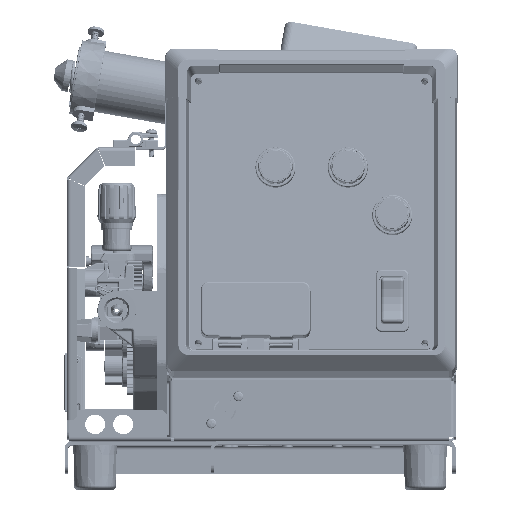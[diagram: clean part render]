
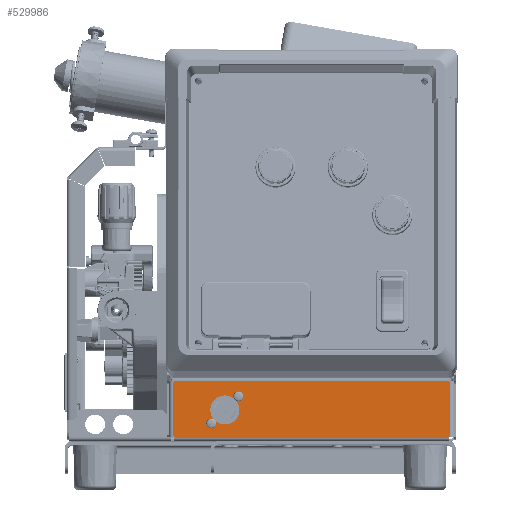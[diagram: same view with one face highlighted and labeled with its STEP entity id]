
A CAD part, top view. The second image highlights one B-rep face of the part: STEP entity #529986.
In plain terms, the highlighted planar face has unit normal (0, 0, 1).
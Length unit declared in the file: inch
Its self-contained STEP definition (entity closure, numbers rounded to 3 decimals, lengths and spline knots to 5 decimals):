
#7947 = EDGE_CURVE ( 'NONE', #282953, #280948, #452229, .T. ) ;
#13531 = CARTESIAN_POINT ( 'NONE',  ( -3.1265, -0.449, 0.02 ) ) ;
#18204 = CARTESIAN_POINT ( 'NONE',  ( -2.7045, -0.027, 0.02 ) ) ;
#22822 = CARTESIAN_POINT ( 'NONE',  ( 4.2445, 0.824, 0.02 ) ) ;
#26333 = CARTESIAN_POINT ( 'NONE',  ( 0., 0., 0.02 ) ) ;
#27348 = VECTOR ( 'NONE', #218556, 39.37008 ) ;
#27482 = AXIS2_PLACEMENT_3D ( 'NONE', #393565, #522742, #351673 ) ;
#29958 = CARTESIAN_POINT ( 'NONE',  ( -2.7045, -0.027, 0.02 ) ) ;
#34849 = ORIENTED_EDGE ( 'NONE', *, *, #231087, .F. ) ;
#35407 = DIRECTION ( 'NONE',  ( 0., 0., 1. ) ) ;
#37204 = EDGE_CURVE ( 'NONE', #315148, #107865, #133480, .T. ) ;
#43350 = EDGE_CURVE ( 'NONE', #526925, #466337, #488177, .T. ) ;
#45814 = CARTESIAN_POINT ( 'NONE',  ( -4.3065, -0.886, 0.02 ) ) ;
#48154 = ORIENTED_EDGE ( 'NONE', *, *, #7947, .T. ) ;
#48450 = ORIENTED_EDGE ( 'NONE', *, *, #530466, .F. ) ;
#55309 = DIRECTION ( 'NONE',  ( 1., 0., 0. ) ) ;
#55444 = DIRECTION ( 'NONE',  ( 0., 0., 1. ) ) ;
#55709 = CIRCLE ( 'NONE', #454142, 0.1015 ) ;
#56353 = EDGE_CURVE ( 'NONE', #184432, #69488, #152258, .T. ) ;
#57358 = EDGE_LOOP ( 'NONE', ( #147761, #482878 ) ) ;
#59331 = DIRECTION ( 'NONE',  ( 0., 0., 1. ) ) ;
#62891 = CARTESIAN_POINT ( 'NONE',  ( -3.025, -0.449, 0.02 ) ) ;
#63553 = DIRECTION ( 'NONE',  ( 1., 0., 0. ) ) ;
#63917 = ORIENTED_EDGE ( 'NONE', *, *, #75663, .T. ) ;
#67519 = VERTEX_POINT ( 'NONE', #256933 ) ;
#69488 = VERTEX_POINT ( 'NONE', #338821 ) ;
#70921 = VERTEX_POINT ( 'NONE', #118776 ) ;
#71647 = EDGE_LOOP ( 'NONE', ( #99910, #48154, #438652, #96997, #168463, #274072, #115572, #63917 ) ) ;
#72937 = AXIS2_PLACEMENT_3D ( 'NONE', #26333, #321123, #155430 ) ;
#74126 = CARTESIAN_POINT ( 'NONE',  ( -2.2515, -0.027, 0.02 ) ) ;
#75663 = EDGE_CURVE ( 'NONE', #463678, #67519, #367041, .T. ) ;
#76447 = DIRECTION ( 'NONE',  ( -1., 0., 0. ) ) ;
#83204 = CARTESIAN_POINT ( 'NONE',  ( -4.3065, 0.824, 0.02 ) ) ;
#83943 = EDGE_LOOP ( 'NONE', ( #234209, #34849 ) ) ;
#96997 = ORIENTED_EDGE ( 'NONE', *, *, #174720, .T. ) ;
#97300 = AXIS2_PLACEMENT_3D ( 'NONE', #13531, #304691, #55309 ) ;
#99910 = ORIENTED_EDGE ( 'NONE', *, *, #206285, .T. ) ;
#103768 = AXIS2_PLACEMENT_3D ( 'NONE', #428689, #55444, #139073 ) ;
#107865 = VERTEX_POINT ( 'NONE', #62891 ) ;
#109946 = CARTESIAN_POINT ( 'NONE',  ( 4.3065, 0.886, 0.02 ) ) ;
#115572 = ORIENTED_EDGE ( 'NONE', *, *, #272090, .T. ) ;
#116513 = CARTESIAN_POINT ( 'NONE',  ( -4.3065, 0.886, 0.02 ) ) ;
#118776 = CARTESIAN_POINT ( 'NONE',  ( -2.181, 0.395, 0.02 ) ) ;
#121046 = CARTESIAN_POINT ( 'NONE',  ( -3.228, -0.449, 0.02 ) ) ;
#122768 = DIRECTION ( 'NONE',  ( 0., 0., 1. ) ) ;
#132799 = EDGE_CURVE ( 'NONE', #335147, #70921, #355181, .T. ) ;
#133480 = CIRCLE ( 'NONE', #97300, 0.1015 ) ;
#136922 = EDGE_CURVE ( 'NONE', #280948, #536474, #482909, .T. ) ;
#139073 = DIRECTION ( 'NONE',  ( 1., 0., 0. ) ) ;
#147761 = ORIENTED_EDGE ( 'NONE', *, *, #209991, .F. ) ;
#148334 = DIRECTION ( 'NONE',  ( 0., 0., 1. ) ) ;
#152258 = CIRCLE ( 'NONE', #306434, 0.453 ) ;
#154901 = CARTESIAN_POINT ( 'NONE',  ( 4.2445, -0.824, 0.02 ) ) ;
#155430 = DIRECTION ( 'NONE',  ( 1., 0., 0. ) ) ;
#168463 = ORIENTED_EDGE ( 'NONE', *, *, #398054, .T. ) ;
#174720 = EDGE_CURVE ( 'NONE', #536474, #398660, #204020, .T. ) ;
#184432 = VERTEX_POINT ( 'NONE', #74126 ) ;
#187255 = DIRECTION ( 'NONE',  ( 0., 0., 1. ) ) ;
#200316 = DIRECTION ( 'NONE',  ( 1., 0., 0. ) ) ;
#204020 = CIRCLE ( 'NONE', #250275, 0.062 ) ;
#205696 = FACE_BOUND ( 'NONE', #250888, .T. ) ;
#206285 = EDGE_CURVE ( 'NONE', #67519, #282953, #229351, .T. ) ;
#209991 = EDGE_CURVE ( 'NONE', #70921, #335147, #55709, .T. ) ;
#218556 = DIRECTION ( 'NONE',  ( 1., 0., 0. ) ) ;
#218744 = FACE_BOUND ( 'NONE', #83943, .T. ) ;
#229351 = LINE ( 'NONE', #45814, #27348 ) ;
#231087 = EDGE_CURVE ( 'NONE', #69488, #184432, #424025, .T. ) ;
#233821 = DIRECTION ( 'NONE',  ( 1., 0., 0. ) ) ;
#234209 = ORIENTED_EDGE ( 'NONE', *, *, #56353, .F. ) ;
#240775 = DIRECTION ( 'NONE',  ( 0., 1., 0. ) ) ;
#241360 = VECTOR ( 'NONE', #240775, 39.37008 ) ;
#245542 = AXIS2_PLACEMENT_3D ( 'NONE', #154901, #449874, #200316 ) ;
#250275 = AXIS2_PLACEMENT_3D ( 'NONE', #22822, #148334, #233821 ) ;
#250888 = EDGE_LOOP ( 'NONE', ( #48450, #299092 ) ) ;
#251633 = AXIS2_PLACEMENT_3D ( 'NONE', #372324, #122768, #414132 ) ;
#256933 = CARTESIAN_POINT ( 'NONE',  ( -4.2445, -0.886, 0.02 ) ) ;
#263191 = CARTESIAN_POINT ( 'NONE',  ( -4.2445, -0.824, 0.02 ) ) ;
#270346 = CIRCLE ( 'NONE', #27482, 0.1015 ) ;
#272090 = EDGE_CURVE ( 'NONE', #466337, #463678, #502758, .T. ) ;
#274072 = ORIENTED_EDGE ( 'NONE', *, *, #43350, .T. ) ;
#280948 = VERTEX_POINT ( 'NONE', #304015 ) ;
#282953 = VERTEX_POINT ( 'NONE', #478124 ) ;
#299092 = ORIENTED_EDGE ( 'NONE', *, *, #37204, .F. ) ;
#304015 = CARTESIAN_POINT ( 'NONE',  ( 4.3065, -0.824, 0.02 ) ) ;
#304691 = DIRECTION ( 'NONE',  ( 0., 0., 1. ) ) ;
#306434 = AXIS2_PLACEMENT_3D ( 'NONE', #29958, #35407, #366826 ) ;
#315148 = VERTEX_POINT ( 'NONE', #121046 ) ;
#321123 = DIRECTION ( 'NONE',  ( 0., 0., 1. ) ) ;
#335147 = VERTEX_POINT ( 'NONE', #450962 ) ;
#338821 = CARTESIAN_POINT ( 'NONE',  ( -3.1575, -0.027, 0.02 ) ) ;
#342492 = AXIS2_PLACEMENT_3D ( 'NONE', #18204, #187255, #63553 ) ;
#351673 = DIRECTION ( 'NONE',  ( 1., 0., 0. ) ) ;
#355181 = CIRCLE ( 'NONE', #251633, 0.1015 ) ;
#357166 = DIRECTION ( 'NONE',  ( 0., 0., 1. ) ) ;
#366826 = DIRECTION ( 'NONE',  ( 1., 0., 0. ) ) ;
#367041 = CIRCLE ( 'NONE', #407623, 0.062 ) ;
#372324 = CARTESIAN_POINT ( 'NONE',  ( -2.2825, 0.395, 0.02 ) ) ;
#373217 = CARTESIAN_POINT ( 'NONE',  ( -4.3065, 0.886, 0.02 ) ) ;
#388726 = VECTOR ( 'NONE', #76447, 39.37008 ) ;
#392637 = CARTESIAN_POINT ( 'NONE',  ( -4.3065, -0.824, 0.02 ) ) ;
#393565 = CARTESIAN_POINT ( 'NONE',  ( -3.1265, -0.449, 0.02 ) ) ;
#395480 = DIRECTION ( 'NONE',  ( 1., 0., 0. ) ) ;
#398054 = EDGE_CURVE ( 'NONE', #398660, #526925, #434607, .T. ) ;
#398660 = VERTEX_POINT ( 'NONE', #403684 ) ;
#403684 = CARTESIAN_POINT ( 'NONE',  ( 4.2445, 0.886, 0.02 ) ) ;
#407623 = AXIS2_PLACEMENT_3D ( 'NONE', #263191, #59331, #510940 ) ;
#413256 = DIRECTION ( 'NONE',  ( 0., -1., 0. ) ) ;
#414132 = DIRECTION ( 'NONE',  ( 1., 0., 0. ) ) ;
#424025 = CIRCLE ( 'NONE', #342492, 0.453 ) ;
#428689 = CARTESIAN_POINT ( 'NONE',  ( -4.2445, 0.824, 0.02 ) ) ;
#434607 = LINE ( 'NONE', #116513, #388726 ) ;
#437265 = CARTESIAN_POINT ( 'NONE',  ( -2.2825, 0.395, 0.02 ) ) ;
#438652 = ORIENTED_EDGE ( 'NONE', *, *, #136922, .T. ) ;
#441406 = PLANE ( 'NONE',  #72937 ) ;
#449874 = DIRECTION ( 'NONE',  ( 0., 0., 1. ) ) ;
#450962 = CARTESIAN_POINT ( 'NONE',  ( -2.384, 0.395, 0.02 ) ) ;
#452229 = CIRCLE ( 'NONE', #245542, 0.062 ) ;
#454142 = AXIS2_PLACEMENT_3D ( 'NONE', #437265, #357166, #395480 ) ;
#462121 = CARTESIAN_POINT ( 'NONE',  ( -4.2445, 0.886, 0.02 ) ) ;
#463678 = VERTEX_POINT ( 'NONE', #392637 ) ;
#466337 = VERTEX_POINT ( 'NONE', #83204 ) ;
#478124 = CARTESIAN_POINT ( 'NONE',  ( 4.2445, -0.886, 0.02 ) ) ;
#482878 = ORIENTED_EDGE ( 'NONE', *, *, #132799, .F. ) ;
#482909 = LINE ( 'NONE', #109946, #241360 ) ;
#488177 = CIRCLE ( 'NONE', #103768, 0.062 ) ;
#489080 = CARTESIAN_POINT ( 'NONE',  ( 4.3065, 0.824, 0.02 ) ) ;
#496019 = VECTOR ( 'NONE', #413256, 39.37008 ) ;
#502758 = LINE ( 'NONE', #373217, #496019 ) ;
#505625 = FACE_BOUND ( 'NONE', #57358, .T. ) ;
#510940 = DIRECTION ( 'NONE',  ( 1., 0., 0. ) ) ;
#518683 = FACE_OUTER_BOUND ( 'NONE', #71647, .T. ) ;
#522742 = DIRECTION ( 'NONE',  ( 0., 0., 1. ) ) ;
#526925 = VERTEX_POINT ( 'NONE', #462121 ) ;
#529986 = ADVANCED_FACE ( 'NONE', ( #218744, #205696, #505625, #518683 ), #441406, .T. ) ;
#530466 = EDGE_CURVE ( 'NONE', #107865, #315148, #270346, .T. ) ;
#536474 = VERTEX_POINT ( 'NONE', #489080 ) ;
